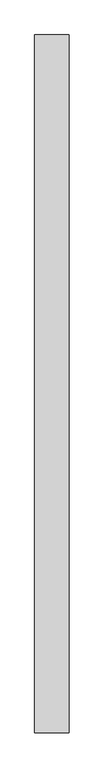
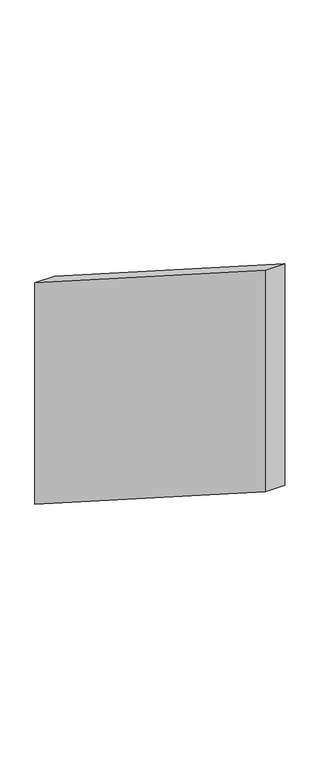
"""IFC4 building model written with IfcOpenShell, lengths in millimetres: plate geometry, 結構襯料 25 : 結構襯料 16."""

from ifc_helpers import new_model, si_unit, frame, origin, place, context, project, spatial, polyline, outline, extrude, source, transform, mapped, element, save


def plate_c80c57bd(model_context):
    return source(origin(), model_context, "Body", "SweptSolid", [
        extrude(outline(polyline([(-2595.1928355, -271.5325027), (-3605.1928355, 374.8674973), (-3605.1928355, 968.5003805), (-2595.1928355, 322.1003805), (-2595.1928355, -271.5325027)])), frame((-18932.9248768, 0.0, 0.0), z_axis=(1.0, 0.0, 0.0), x_axis=(0.0, 1.0, 0.0)), (0.0, 0.0, 1.0), 50.0),
    ])


if __name__ == "__main__":
    model = new_model("IFC4")
    model_context = context("Model", 3, world=origin())
    ifc_project = project(units=[si_unit("LENGTHUNIT", "METRE", prefix="MILLI")], contexts=[model_context])
    site = spatial("IfcSite", under=ifc_project)
    building = spatial("IfcBuilding", under=site)
    placement = place(None, origin())
    plate_shape = plate_c80c57bd(model_context)
    element("IfcPlate", 1, ObjectType="結構襯料 25 : 結構襯料 16", at=placement, inside=building, context=model_context, shape_type="MappedRepresentation", body=[
        mapped(plate_shape, transform((0.0, 0.0, 0.0), x_axis=(1.0, 0.0, 0.0), y_axis=(0.0, 1.0, 0.0), z_axis=(0.0, 0.0, 1.0))),
    ])
    save(model, "model.ifc")
